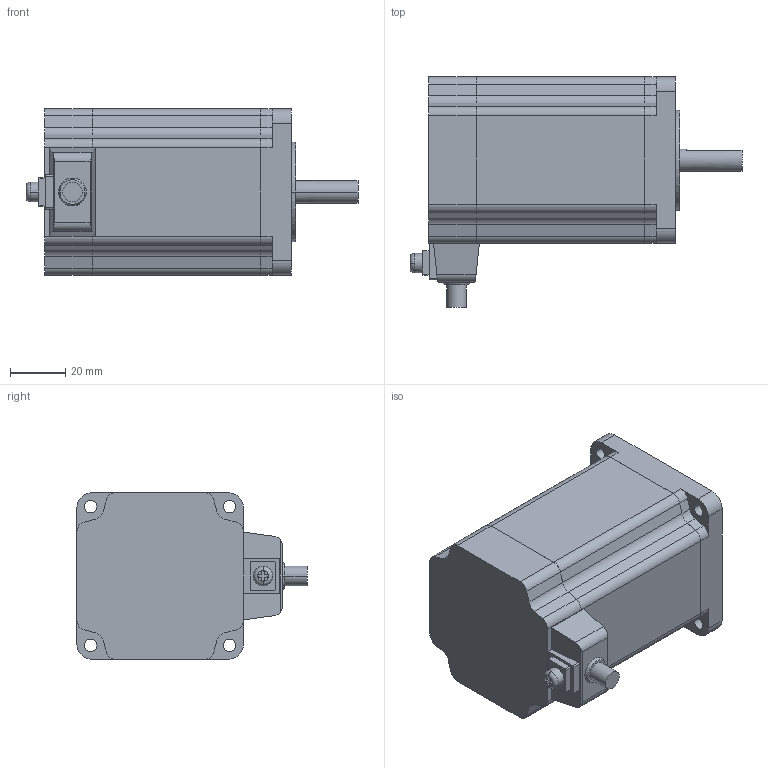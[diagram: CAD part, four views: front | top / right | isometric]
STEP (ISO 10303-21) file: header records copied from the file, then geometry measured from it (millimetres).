
FILE_DESCRIPTION( ( '' ), '1' );
FILE_NAME( 'c:/cad_url_generator/oriental/selction_from_product_tree/stepping_motors/5_phase_stepping_mu/5_phase_rk_series/standard_type/RK569ACE.STEP', '2012-06-14T17:48:01', ( '' ), ( '' ), ' ', ' ', ' ' );
FILE_SCHEMA( ( 'CONFIG_CONTROL_DESIGN' ) );
Length unit declared in the file: millimetre
Products named in the file (1): 1
Bounding box: 119.7 x 83 x 60 mm (x, y, z)
Volume: 296090.4 mm3; surface area: 28978.1 mm2
Topology: 1 solids, 1 shells, 197 faces, 555 edges, 369 vertices
Faces by surface type: plane 105, cylinder 88, torus 2, cone 2
Entity records: 6504 total; most frequent: CARTESIAN_POINT 1158, DIRECTION 1134, ORIENTED_EDGE 1110, EDGE_CURVE 555, AXIS2_PLACEMENT_3D 385, VERTEX_POINT 369, LINE 364, VECTOR 364
